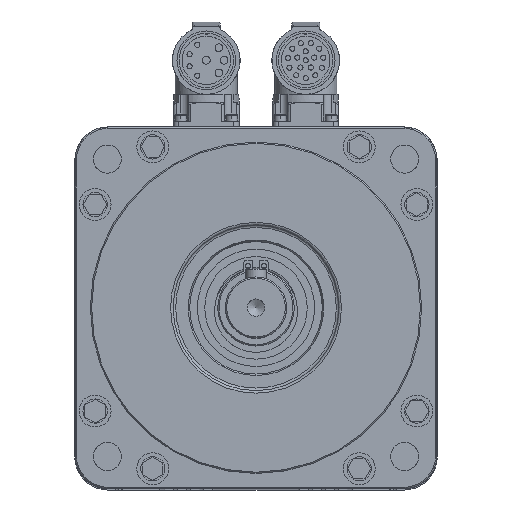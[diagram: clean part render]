
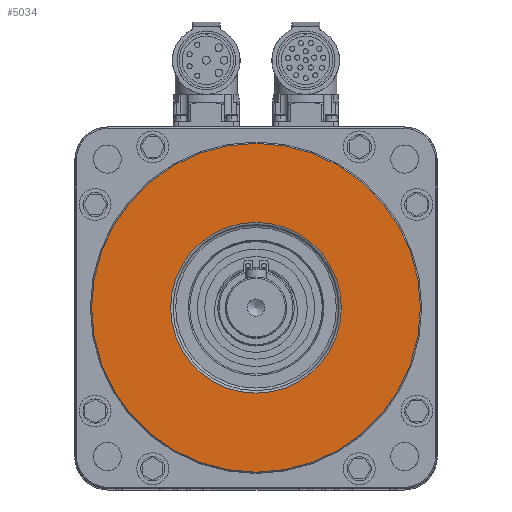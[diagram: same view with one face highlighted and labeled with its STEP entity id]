
A CAD part, top view. The second image highlights one B-rep face of the part: STEP entity #5034.
In plain terms, the highlighted planar face has unit normal (0, 0, 1) as drawn and (1, 0, 0) by its records, which use the part's own axes.
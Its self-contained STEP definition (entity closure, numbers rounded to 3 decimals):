
#5034 = ADVANCED_FACE( '', ( #10188, #10189 ), #10190, .F. );
#10188 = FACE_OUTER_BOUND( '', #21873, .T. );
#10189 = FACE_BOUND( '', #21874, .T. );
#10190 = PLANE( '', #21875 );
#21873 = EDGE_LOOP( '', ( #36930 ) );
#21874 = EDGE_LOOP( '', ( #36931 ) );
#21875 = AXIS2_PLACEMENT_3D( '', #36932, #36933, #36934 );
#36930 = ORIENTED_EDGE( '', *, *, #43911, .T. );
#36931 = ORIENTED_EDGE( '', *, *, #45585, .T. );
#36932 = CARTESIAN_POINT( '', ( 16.5, 0., 0. ) );
#36933 = DIRECTION( '', ( -1., 0., 0. ) );
#36934 = DIRECTION( '', ( 0., -1., 0. ) );
#43911 = EDGE_CURVE( '', #53923, #53923, #53924, .F. );
#45585 = EDGE_CURVE( '', #56155, #56155, #56156, .T. );
#53923 = VERTEX_POINT( '', #73691 );
#53924 = CIRCLE( '', #73692, 64.5 );
#56155 = VERTEX_POINT( '', #80827 );
#56156 = CIRCLE( '', #80828, 33.5 );
#73691 = CARTESIAN_POINT( '', ( 16.5, -64.5, 0. ) );
#73692 = AXIS2_PLACEMENT_3D( '', #88748, #88749, #88750 );
#80827 = CARTESIAN_POINT( '', ( 16.5, -33.5, 0. ) );
#80828 = AXIS2_PLACEMENT_3D( '', #90693, #90694, #90695 );
#88748 = CARTESIAN_POINT( '', ( 16.5, 0., 0. ) );
#88749 = DIRECTION( '', ( -1., 0., 0. ) );
#88750 = DIRECTION( '', ( 0., -1., 0. ) );
#90693 = CARTESIAN_POINT( '', ( 16.5, 0., 0. ) );
#90694 = DIRECTION( '', ( -1., 0., 0. ) );
#90695 = DIRECTION( '', ( 0., -1., 0. ) );
